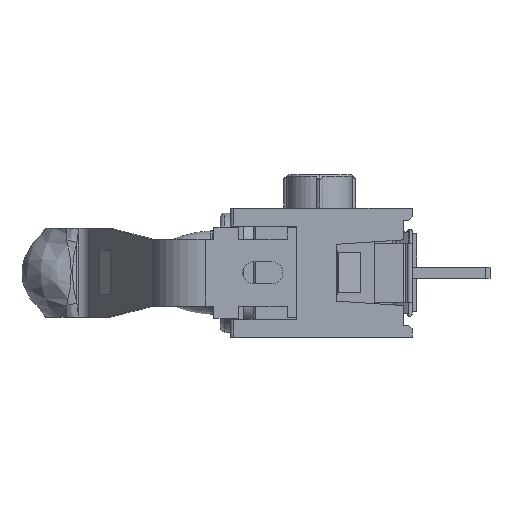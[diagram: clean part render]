
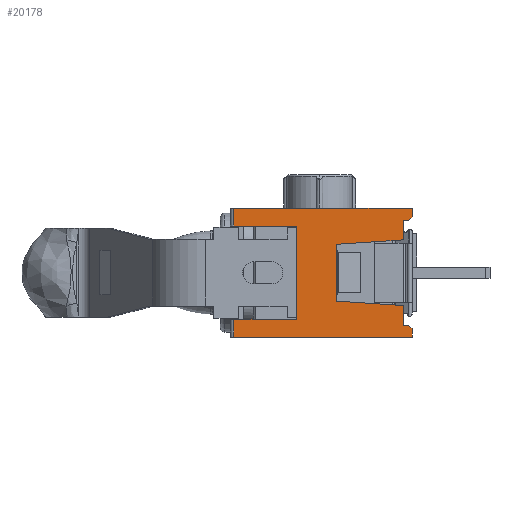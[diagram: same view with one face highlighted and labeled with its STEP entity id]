
A CAD part, left-side view. The second image highlights one B-rep face of the part: STEP entity #20178.
In plain terms, the highlighted planar face has unit normal (-1, 0, 0).
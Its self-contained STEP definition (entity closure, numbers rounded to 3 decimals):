
#1379 = CARTESIAN_POINT ( 'NONE',  ( -6.5, 8.205, -2.095 ) ) ;
#1457 = DIRECTION ( 'NONE',  ( 0., 0., -1. ) ) ;
#1458 = DIRECTION ( 'NONE',  ( 1., 0., 0. ) ) ;
#1459 = CARTESIAN_POINT ( 'NONE',  ( -6.5, 8.355, 2.9 ) ) ;
#1460 = AXIS2_PLACEMENT_3D ( 'NONE', #1459, #1458, #1457 ) ;
#1462 = PLANE ( 'NONE',  #1460 ) ;
#1478 = FACE_OUTER_BOUND ( 'NONE', #20245, .T. ) ;
#1479 = CARTESIAN_POINT ( 'NONE',  ( -6.5, 5.39, -2.095 ) ) ;
#1507 = DIRECTION ( 'NONE',  ( 0., 0., -1. ) ) ;
#1508 = VECTOR ( 'NONE', #1507, 1000. ) ;
#1509 = CARTESIAN_POINT ( 'NONE',  ( -6.5, 8.205, 2.9 ) ) ;
#1510 = LINE ( 'NONE', #1509, #1508 ) ;
#1516 = CARTESIAN_POINT ( 'NONE',  ( -6.5, 3.6, 1.275 ) ) ;
#1541 = DIRECTION ( 'NONE',  ( 0., -0.998, 0.067 ) ) ;
#1542 = VECTOR ( 'NONE', #1541, 1000. ) ;
#1547 = CARTESIAN_POINT ( 'NONE',  ( -6.5, 3.6, 1.275 ) ) ;
#1550 = LINE ( 'NONE', #1547, #1542 ) ;
#1628 = DIRECTION ( 'NONE',  ( 0., -1., 0. ) ) ;
#1629 = VECTOR ( 'NONE', #1628, 1000. ) ;
#1630 = CARTESIAN_POINT ( 'NONE',  ( -6.5, 8.355, -2.095 ) ) ;
#1631 = LINE ( 'NONE', #1630, #1629 ) ;
#1633 = DIRECTION ( 'NONE',  ( 0., 0., -1. ) ) ;
#1634 = VECTOR ( 'NONE', #1633, 1000. ) ;
#1635 = CARTESIAN_POINT ( 'NONE',  ( -6.5, 5.39, -2.095 ) ) ;
#1636 = LINE ( 'NONE', #1635, #1634 ) ;
#1705 = DIRECTION ( 'NONE',  ( 0., 0.998, 0.067 ) ) ;
#1706 = VECTOR ( 'NONE', #1705, 1000. ) ;
#1707 = CARTESIAN_POINT ( 'NONE',  ( -6.5, 0.6, -1.475 ) ) ;
#1708 = LINE ( 'NONE', #1707, #1706 ) ;
#1729 = DIRECTION ( 'NONE',  ( 0., 0., -1. ) ) ;
#1730 = VECTOR ( 'NONE', #1729, 1000. ) ;
#1731 = CARTESIAN_POINT ( 'NONE',  ( -6.5, 8.205, 2.9 ) ) ;
#1732 = LINE ( 'NONE', #1731, #1730 ) ;
#1734 = CARTESIAN_POINT ( 'NONE',  ( -6.5, 3.6, -1.275 ) ) ;
#1739 = CARTESIAN_POINT ( 'NONE',  ( -6.5, 0.6, -1.475 ) ) ;
#1740 = CARTESIAN_POINT ( 'NONE',  ( -6.5, 8.205, 2.095 ) ) ;
#1741 = DIRECTION ( 'NONE',  ( 0., 0., 1. ) ) ;
#1742 = VECTOR ( 'NONE', #1741, 1000. ) ;
#1743 = CARTESIAN_POINT ( 'NONE',  ( -6.5, 3.6, -2.352 ) ) ;
#1744 = LINE ( 'NONE', #1743, #1742 ) ;
#1745 = CARTESIAN_POINT ( 'NONE',  ( -6.5, 5.39, 2.095 ) ) ;
#1746 = CARTESIAN_POINT ( 'NONE',  ( -6.5, 0.6, 1.475 ) ) ;
#1787 = LINE ( 'NONE', #1820, #1819 ) ;
#1788 = DIRECTION ( 'NONE',  ( 0., 0., 1. ) ) ;
#1789 = VECTOR ( 'NONE', #1788, 1000. ) ;
#1790 = CARTESIAN_POINT ( 'NONE',  ( -6.5, 0.6, 1.475 ) ) ;
#1791 = LINE ( 'NONE', #1790, #1789 ) ;
#1805 = DIRECTION ( 'NONE',  ( 0., 1., 0. ) ) ;
#1806 = VECTOR ( 'NONE', #1805, 1000. ) ;
#1807 = CARTESIAN_POINT ( 'NONE',  ( -6.5, 8.355, 2.095 ) ) ;
#1808 = LINE ( 'NONE', #1807, #1806 ) ;
#1818 = DIRECTION ( 'NONE',  ( 0., 0., 1. ) ) ;
#1819 = VECTOR ( 'NONE', #1818, 1000. ) ;
#1820 = CARTESIAN_POINT ( 'NONE',  ( -6.5, 0.6, -2.352 ) ) ;
#11580 = CARTESIAN_POINT ( 'NONE',  ( -6.5, 0.2, 2.9 ) ) ;
#11581 = DIRECTION ( 'NONE',  ( 0., -1., 0. ) ) ;
#11582 = VECTOR ( 'NONE', #11581, 1000. ) ;
#11583 = CARTESIAN_POINT ( 'NONE',  ( -6.5, 8.355, 2.9 ) ) ;
#11584 = LINE ( 'NONE', #11583, #11582 ) ;
#11585 = CARTESIAN_POINT ( 'NONE',  ( -6.5, 8.205, 2.9 ) ) ;
#11731 = DIRECTION ( 'NONE',  ( 0., 0.707, 0.707 ) ) ;
#11732 = VECTOR ( 'NONE', #11731, 1000. ) ;
#11733 = CARTESIAN_POINT ( 'NONE',  ( -6.5, 0.2, -2.502 ) ) ;
#11734 = LINE ( 'NONE', #11733, #11732 ) ;
#11759 = LINE ( 'NONE', #11817, #11816 ) ;
#11760 = CARTESIAN_POINT ( 'NONE',  ( -6.5, 0.2, -2.9 ) ) ;
#11814 = CARTESIAN_POINT ( 'NONE',  ( -6.5, 8.205, -2.9 ) ) ;
#11815 = DIRECTION ( 'NONE',  ( 0., -1., 0. ) ) ;
#11816 = VECTOR ( 'NONE', #11815, 1000. ) ;
#11817 = CARTESIAN_POINT ( 'NONE',  ( -6.5, 8.355, -2.9 ) ) ;
#11857 = CARTESIAN_POINT ( 'NONE',  ( -6.5, 0.6, -2.352 ) ) ;
#11909 = CARTESIAN_POINT ( 'NONE',  ( -6.5, 0.35, -2.352 ) ) ;
#11910 = DIRECTION ( 'NONE',  ( 0., 1., 0. ) ) ;
#11911 = VECTOR ( 'NONE', #11910, 1000. ) ;
#11981 = CARTESIAN_POINT ( 'NONE',  ( -6.5, 7.77, -2.353 ) ) ;
#11982 = LINE ( 'NONE', #11981, #11911 ) ;
#12404 = DIRECTION ( 'NONE',  ( 0., -0.707, 0.707 ) ) ;
#12405 = VECTOR ( 'NONE', #12404, 1000. ) ;
#12406 = CARTESIAN_POINT ( 'NONE',  ( -6.5, 0.2, 2.502 ) ) ;
#12407 = LINE ( 'NONE', #12406, #12405 ) ;
#12409 = CARTESIAN_POINT ( 'NONE',  ( -6.5, 0.2, 2.502 ) ) ;
#12465 = DIRECTION ( 'NONE',  ( 0., 0., 1. ) ) ;
#12466 = VECTOR ( 'NONE', #12465, 1000. ) ;
#12467 = CARTESIAN_POINT ( 'NONE',  ( -6.5, 0.2, 2.502 ) ) ;
#12468 = LINE ( 'NONE', #12467, #12466 ) ;
#12582 = DIRECTION ( 'NONE',  ( 0., -1., 0. ) ) ;
#12583 = VECTOR ( 'NONE', #12582, 1000. ) ;
#12584 = CARTESIAN_POINT ( 'NONE',  ( -6.5, 7.77, 2.353 ) ) ;
#12585 = LINE ( 'NONE', #12584, #12583 ) ;
#12643 = CARTESIAN_POINT ( 'NONE',  ( -6.5, 0.35, 2.352 ) ) ;
#12644 = CARTESIAN_POINT ( 'NONE',  ( -6.5, 0.6, 2.352 ) ) ;
#12857 = DIRECTION ( 'NONE',  ( 0., 0., 1. ) ) ;
#12858 = VECTOR ( 'NONE', #12857, 1000. ) ;
#12859 = CARTESIAN_POINT ( 'NONE',  ( -6.5, 0.2, -2.502 ) ) ;
#12860 = LINE ( 'NONE', #12859, #12858 ) ;
#12862 = CARTESIAN_POINT ( 'NONE',  ( -6.5, 0.2, -2.502 ) ) ;
#18823 = VERTEX_POINT ( 'NONE', #11585 ) ;
#18825 = EDGE_CURVE ( 'NONE', #18823, #18826, #11584, .T. ) ;
#18826 = VERTEX_POINT ( 'NONE', #11580 ) ;
#18963 = EDGE_CURVE ( 'NONE', #19518, #19121, #11734, .T. ) ;
#19024 = VERTEX_POINT ( 'NONE', #11857 ) ;
#19066 = VERTEX_POINT ( 'NONE', #11760 ) ;
#19068 = EDGE_CURVE ( 'NONE', #19069, #19066, #11759, .T. ) ;
#19069 = VERTEX_POINT ( 'NONE', #11814 ) ;
#19120 = EDGE_CURVE ( 'NONE', #19121, #19024, #11982, .T. ) ;
#19121 = VERTEX_POINT ( 'NONE', #11909 ) ;
#19297 = VERTEX_POINT ( 'NONE', #12409 ) ;
#19299 = EDGE_CURVE ( 'NONE', #19360, #19297, #12407, .T. ) ;
#19307 = EDGE_CURVE ( 'NONE', #19297, #18826, #12468, .T. ) ;
#19359 = VERTEX_POINT ( 'NONE', #12644 ) ;
#19360 = VERTEX_POINT ( 'NONE', #12643 ) ;
#19428 = EDGE_CURVE ( 'NONE', #19359, #19360, #12585, .T. ) ;
#19518 = VERTEX_POINT ( 'NONE', #12862 ) ;
#19520 = EDGE_CURVE ( 'NONE', #19066, #19518, #12860, .T. ) ;
#20175 = VERTEX_POINT ( 'NONE', #1516 ) ;
#20176 = EDGE_CURVE ( 'NONE', #18823, #20217, #1510, .T. ) ;
#20177 = VERTEX_POINT ( 'NONE', #1479 ) ;
#20178 = ADVANCED_FACE ( 'NONE', ( #1478 ), #1462, .F. ) ;
#20179 = ORIENTED_EDGE ( 'NONE', *, *, #18825, .F. ) ;
#20181 = VERTEX_POINT ( 'NONE', #1379 ) ;
#20189 = ORIENTED_EDGE ( 'NONE', *, *, #19068, .T. ) ;
#20190 = ORIENTED_EDGE ( 'NONE', *, *, #19520, .T. ) ;
#20191 = ORIENTED_EDGE ( 'NONE', *, *, #18963, .T. ) ;
#20192 = ORIENTED_EDGE ( 'NONE', *, *, #20258, .T. ) ;
#20194 = ORIENTED_EDGE ( 'NONE', *, *, #20195, .T. ) ;
#20195 = EDGE_CURVE ( 'NONE', #20175, #20210, #1550, .T. ) ;
#20208 = ORIENTED_EDGE ( 'NONE', *, *, #20271, .F. ) ;
#20210 = VERTEX_POINT ( 'NONE', #1746 ) ;
#20211 = VERTEX_POINT ( 'NONE', #1745 ) ;
#20212 = ORIENTED_EDGE ( 'NONE', *, *, #20176, .T. ) ;
#20216 = EDGE_CURVE ( 'NONE', #20222, #20175, #1744, .T. ) ;
#20217 = VERTEX_POINT ( 'NONE', #1740 ) ;
#20218 = VERTEX_POINT ( 'NONE', #1739 ) ;
#20222 = VERTEX_POINT ( 'NONE', #1734 ) ;
#20223 = ORIENTED_EDGE ( 'NONE', *, *, #20224, .T. ) ;
#20224 = EDGE_CURVE ( 'NONE', #20181, #19069, #1732, .T. ) ;
#20230 = ORIENTED_EDGE ( 'NONE', *, *, #20231, .T. ) ;
#20231 = EDGE_CURVE ( 'NONE', #20218, #20222, #1708, .T. ) ;
#20232 = ORIENTED_EDGE ( 'NONE', *, *, #20216, .T. ) ;
#20245 = EDGE_LOOP ( 'NONE', ( #20179, #20212, #20208, #20192, #20259, #20223, #20189, #20190, #20191, #20287, #20288, #20230, #20232, #20194, #20283, #20285, #20286, #20265 ) ) ;
#20258 = EDGE_CURVE ( 'NONE', #20211, #20177, #1636, .T. ) ;
#20259 = ORIENTED_EDGE ( 'NONE', *, *, #20260, .F. ) ;
#20260 = EDGE_CURVE ( 'NONE', #20181, #20177, #1631, .T. ) ;
#20265 = ORIENTED_EDGE ( 'NONE', *, *, #19307, .T. ) ;
#20271 = EDGE_CURVE ( 'NONE', #20211, #20217, #1808, .T. ) ;
#20283 = ORIENTED_EDGE ( 'NONE', *, *, #20284, .T. ) ;
#20284 = EDGE_CURVE ( 'NONE', #20210, #19359, #1791, .T. ) ;
#20285 = ORIENTED_EDGE ( 'NONE', *, *, #19428, .T. ) ;
#20286 = ORIENTED_EDGE ( 'NONE', *, *, #19299, .T. ) ;
#20287 = ORIENTED_EDGE ( 'NONE', *, *, #19120, .T. ) ;
#20288 = ORIENTED_EDGE ( 'NONE', *, *, #20289, .T. ) ;
#20289 = EDGE_CURVE ( 'NONE', #19024, #20218, #1787, .T. ) ;
